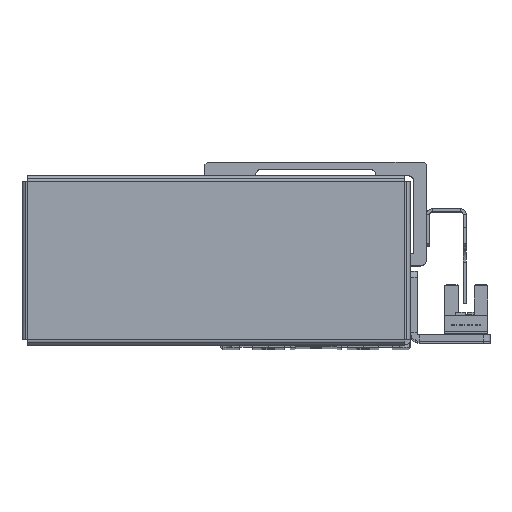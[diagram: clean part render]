
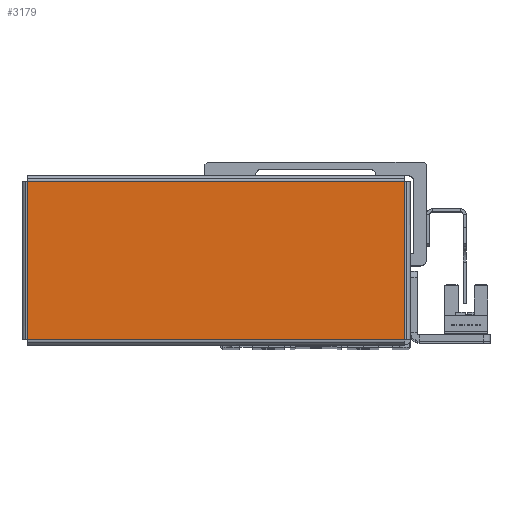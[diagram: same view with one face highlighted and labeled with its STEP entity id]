
A CAD part, top view. The second image highlights one B-rep face of the part: STEP entity #3179.
In plain terms, the highlighted planar face has unit normal (0, 0, 1) as drawn and (0, 0, -1) by its records, which use the part's own axes.
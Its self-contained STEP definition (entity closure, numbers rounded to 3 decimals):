
#487 = VERTEX_POINT ( 'NONE', #8421 ) ;
#492 = VERTEX_POINT ( 'NONE', #8427 ) ;
#494 = VERTEX_POINT ( 'NONE', #8425 ) ;
#525 = VERTEX_POINT ( 'NONE', #18988 ) ;
#3179 = ADVANCED_FACE ( 'NONE', ( #6098 ), #7502, .F. ) ;
#4173 = EDGE_LOOP ( 'NONE', ( #5560, #5490, #5477, #5407 ) ) ;
#5407 = ORIENTED_EDGE ( 'NONE', *, *, #23991, .T. ) ;
#5477 = ORIENTED_EDGE ( 'NONE', *, *, #24014, .T. ) ;
#5490 = ORIENTED_EDGE ( 'NONE', *, *, #24039, .T. ) ;
#5560 = ORIENTED_EDGE ( 'NONE', *, *, #24016, .T. ) ;
#6098 = FACE_OUTER_BOUND ( 'NONE', #4173, .T. ) ;
#7486 = DIRECTION ( 'NONE',  ( 1., 0., 0. ) ) ;
#7502 = PLANE ( 'NONE',  #26157 ) ;
#7503 = DIRECTION ( 'NONE',  ( 0., 0., 1. ) ) ;
#7522 = CARTESIAN_POINT ( 'NONE',  ( 0., 0., -1. ) ) ;
#8421 = CARTESIAN_POINT ( 'NONE',  ( 59.513, 25.013, -1. ) ) ;
#8425 = CARTESIAN_POINT ( 'NONE',  ( 59.513, -25.013, -1. ) ) ;
#8427 = CARTESIAN_POINT ( 'NONE',  ( -59.513, 25.013, -1. ) ) ;
#16512 = DIRECTION ( 'NONE',  ( 1., 0., 0. ) ) ;
#16533 = CARTESIAN_POINT ( 'NONE',  ( -59.543, 25.013, -1. ) ) ;
#16541 = CARTESIAN_POINT ( 'NONE',  ( -59.513, -25.043, -1. ) ) ;
#16550 = CARTESIAN_POINT ( 'NONE',  ( 59.513, 25.043, -1. ) ) ;
#16566 = DIRECTION ( 'NONE',  ( 0., 1., 0. ) ) ;
#16568 = DIRECTION ( 'NONE',  ( 0., -1., 0. ) ) ;
#16624 = DIRECTION ( 'NONE',  ( -1., 0., 0. ) ) ;
#16647 = CARTESIAN_POINT ( 'NONE',  ( 59.543, -25.013, -1. ) ) ;
#18988 = CARTESIAN_POINT ( 'NONE',  ( -59.513, -25.013, -1. ) ) ;
#23991 = EDGE_CURVE ( 'NONE', #492, #487, #25316, .T. ) ;
#24014 = EDGE_CURVE ( 'NONE', #525, #492, #25368, .T. ) ;
#24016 = EDGE_CURVE ( 'NONE', #487, #494, #25370, .T. ) ;
#24039 = EDGE_CURVE ( 'NONE', #494, #525, #25328, .T. ) ;
#25293 = VECTOR ( 'NONE', #16512, 1000. ) ;
#25316 = LINE ( 'NONE', #16533, #25293 ) ;
#25324 = VECTOR ( 'NONE', #16568, 1000. ) ;
#25328 = LINE ( 'NONE', #16647, #25382 ) ;
#25362 = VECTOR ( 'NONE', #16566, 1000. ) ;
#25368 = LINE ( 'NONE', #16541, #25362 ) ;
#25370 = LINE ( 'NONE', #16550, #25324 ) ;
#25382 = VECTOR ( 'NONE', #16624, 1000. ) ;
#26157 = AXIS2_PLACEMENT_3D ( 'NONE', #7522, #7503, #7486 ) ;
